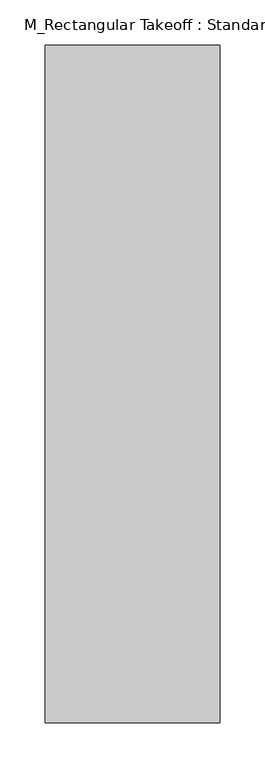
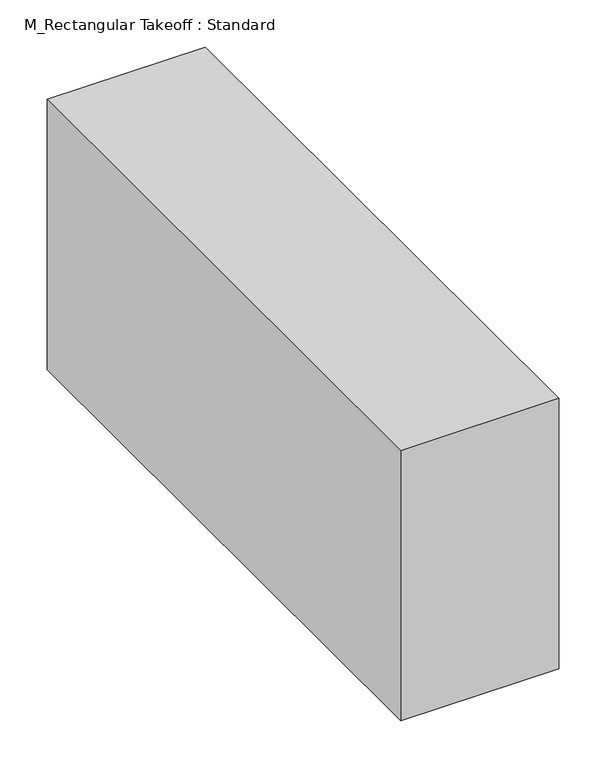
"""IFC4 building model written with IfcOpenShell, lengths in millimetres: duct fitting geometry, M_Rectangular Takeoff : Standard."""

import ifcopenshell
import ifcopenshell.guid

model = None  # the IFC model being written
_history = None  # IfcOwnerHistory: only IFC2X3 demands one
_inside = {}  # id of a spatial element -> (the spatial element, [elements in it])
_under = {}  # id of a project, library or spatial element -> (it, [spatial elements below it])
_declared = {}  # id of a project -> (the project, [libraries it declares])
_typed = {}  # id of a type object -> (the type object, [elements of that type])
_made_of = {}  # id of a material, layer set ... -> (it, [elements and type objects made of it])


def new_model(schema):
    """Start an empty IFC model of exactly this schema.

    Asked for "IFC4X3", IfcOpenShell would pick the latest addendum, in which some entities
    have other attributes; the version numbers below select the first issue.
    IFC2X3 requires an IfcOwnerHistory on every rooted entity: one is made here for all.
    """
    global model, _history
    if schema == "IFC4X3":
        model = ifcopenshell.file(schema_version=(4, 3, 0, 0))
    else:
        model = ifcopenshell.file(schema=schema)
    _inside.clear()
    _under.clear()
    _declared.clear()
    _typed.clear()
    _made_of.clear()
    _history = None
    if model.schema == "IFC2X3":
        org = make("IfcOrganization", Name="unknown")
        user = make(
            "IfcPersonAndOrganization",
            ThePerson=make("IfcPerson", FamilyName="unknown"),
            TheOrganization=org,
        )
        app = make(
            "IfcApplication",
            ApplicationDeveloper=org,
            Version="unknown",
            ApplicationFullName="unknown",
            ApplicationIdentifier="unknown",
        )
        _history = make(
            "IfcOwnerHistory",
            OwningUser=user,
            OwningApplication=app,
            ChangeAction="ADDED",
            CreationDate=0,
        )
    return model


def make(cls, **values):
    """One entity of the class cls with the attributes given. An attribute that is None is left unset."""
    return model.create_entity(
        cls, **{name: value for name, value in values.items() if value is not None}
    )


def rooted(cls, **values):
    """An entity with a GlobalId (a new one), such as an element, a storey or a relation."""
    return make(cls, GlobalId=ifcopenshell.guid.new(), OwnerHistory=_history, **values)


def si_unit(unit_type, name, prefix=None):
    """IfcSIUnit, for example si_unit("LENGTHUNIT", "METRE", prefix="MILLI")."""
    return make("IfcSIUnit", UnitType=unit_type, Prefix=prefix, Name=name)


def assignment(units):
    """IfcUnitAssignment: the units of a project."""
    return None if units is None else make("IfcUnitAssignment", Units=units)


def point(xyz):
    """IfcCartesianPoint."""
    return None if xyz is None else make("IfcCartesianPoint", Coordinates=xyz)


def direction(xyz):
    """IfcDirection."""
    return None if xyz is None else make("IfcDirection", DirectionRatios=xyz)


def frame(location, z_axis=None, x_axis=None):
    """IfcAxis2Placement3D, a coordinate frame: its origin and axes. An axis left out is left unset."""
    return make(
        "IfcAxis2Placement3D",
        Location=point(location),
        Axis=direction(z_axis),
        RefDirection=direction(x_axis),
    )


def origin():
    """The frame at (0, 0, 0) with its axes left unset."""
    return frame((0.0, 0.0, 0.0))


def place(relative_to, where):
    """IfcLocalPlacement: puts the frame where relative to a parent placement (None: the world)."""
    return make(
        "IfcLocalPlacement", PlacementRelTo=relative_to, RelativePlacement=where
    )


def context(
    kind, dimensions, precision=None, world=None, true_north=None, identifier=None
):
    """IfcGeometricRepresentationContext, for example the 3D "Model" context."""
    return make(
        "IfcGeometricRepresentationContext",
        ContextIdentifier=identifier,
        ContextType=kind,
        CoordinateSpaceDimension=dimensions,
        Precision=precision,
        WorldCoordinateSystem=world,
        TrueNorth=true_north,
    )


def project(units=None, contexts=None):
    """IfcProject with its units and contexts."""
    return rooted(
        "IfcProject",
        Name="project",
        RepresentationContexts=contexts,
        UnitsInContext=assignment(units),
    )


def spatial(cls, under=None, at=None, **own):
    """A site, building, storey or space (cls), placed at a placement, below another one or the project."""
    s = rooted(cls, ObjectPlacement=at, **own)
    if under is not None:
        _under.setdefault(under.id(), (under, []))[1].append(s)
    return s


def polyline(points):
    """IfcPolyline through the points."""
    return make("IfcPolyline", Points=[point(p) for p in points])


def outline(outer, holes=None, kind="AREA"):
    """IfcArbitraryClosedProfileDef: a profile drawn as a closed curve; with holes, ...WithVoids."""
    if holes is None:
        return make("IfcArbitraryClosedProfileDef", ProfileType=kind, OuterCurve=outer)
    return make(
        "IfcArbitraryProfileDefWithVoids",
        ProfileType=kind,
        OuterCurve=outer,
        InnerCurves=holes,
    )


def extrude(swept, where, along, depth):
    """IfcExtrudedAreaSolid: the profile swept, set in the frame where, extruded along a direction by depth."""
    return make(
        "IfcExtrudedAreaSolid",
        SweptArea=swept,
        Position=where,
        ExtrudedDirection=direction(along),
        Depth=depth,
    )


def shape(context_of_items, identifier, shape_type, items):
    """IfcShapeRepresentation: the items that make up one representation, for example the "Body"."""
    return make(
        "IfcShapeRepresentation",
        ContextOfItems=context_of_items,
        RepresentationIdentifier=identifier,
        RepresentationType=shape_type,
        Items=items,
    )


def source(mapping_origin, context_of_items, identifier, shape_type, items):
    """IfcRepresentationMap: a shape defined once, which mapped items show again and again."""
    return make(
        "IfcRepresentationMap",
        MappingOrigin=mapping_origin,
        MappedRepresentation=shape(context_of_items, identifier, shape_type, items),
    )


def transform(
    local_origin,
    x_axis=None,
    y_axis=None,
    z_axis=None,
    scale=None,
    scale2=None,
    scale3=None,
    uniform=True,
):
    """IfcCartesianTransformationOperator3D, or its non-uniform kind. x_axis, y_axis, z_axis: its Axis1, 2, 3."""
    if uniform:
        return make(
            "IfcCartesianTransformationOperator3D",
            Axis1=direction(x_axis),
            Axis2=direction(y_axis),
            LocalOrigin=point(local_origin),
            Scale=scale,
            Axis3=direction(z_axis),
        )
    return make(
        "IfcCartesianTransformationOperator3DnonUniform",
        Axis1=direction(x_axis),
        Axis2=direction(y_axis),
        LocalOrigin=point(local_origin),
        Scale=scale,
        Axis3=direction(z_axis),
        Scale2=scale2,
        Scale3=scale3,
    )


def mapped(mapping_source, mapping_target):
    """IfcMappedItem: shows the shape of a source again, moved by a transform."""
    return make(
        "IfcMappedItem", MappingSource=mapping_source, MappingTarget=mapping_target
    )


def made_of(thing, what):
    """Note that an element or type object is made of a material, layer set ...; save() writes the relation."""
    if what is not None:
        _made_of.setdefault(what.id(), (what, []))[1].append(thing)
    return thing


def element(
    cls,
    number,
    at=None,
    inside=None,
    cuts=None,
    type_object=None,
    material=None,
    context=None,
    identifier="Body",
    shape_type=None,
    held_by="IfcProductDefinitionShape",
    body=None,
    shapes=None,
    **own,
):
    """One element of the class cls, such as IfcWall. Its Tag is "e" and its number.

    at: its placement. inside: the storey or other place that contains it. cuts: it is an
    opening in that element (IfcRelVoidsElement). A single representation is given by context,
    identifier, shape_type and body (its items); several are given by shapes. held_by: the class
    of the entity that holds the representations. save() writes the other relations.
    """
    e = rooted(cls, Tag="e%d" % number, ObjectPlacement=at, **own)
    if body is not None:
        shapes = [shape(context, identifier, shape_type, body)]
    if shapes is not None:
        e.Representation = make(held_by, Representations=shapes)
    if inside is not None:
        _inside.setdefault(inside.id(), (inside, []))[1].append(e)
    if cuts is not None:
        rooted(
            "IfcRelVoidsElement", RelatingBuildingElement=cuts, RelatedOpeningElement=e
        )
    if type_object is not None:
        _typed.setdefault(type_object.id(), (type_object, []))[1].append(e)
    return made_of(e, material)


def aggregate(whole, parts):
    """IfcRelAggregates: a whole, such as a stair, and the parts it consists of."""
    return rooted("IfcRelAggregates", RelatingObject=whole, RelatedObjects=parts)


def save(model, path):
    """Write the relations noted so far, then the file.

    IfcRelAggregates (storeys below a building ...), IfcRelContainedInSpatialStructure (elements
    in a storey), IfcRelDefinesByType, IfcRelAssociatesMaterial and IfcRelDeclares: one each for
    every whole, place, type object, material and project.
    """
    for whole, parts in _under.values():
        aggregate(whole, parts)
    for where, things in _inside.values():
        rooted(
            "IfcRelContainedInSpatialStructure",
            RelatedElements=things,
            RelatingStructure=where,
        )
    for kind, things in _typed.values():
        rooted("IfcRelDefinesByType", RelatedObjects=things, RelatingType=kind)
    for what, things in _made_of.values():
        rooted("IfcRelAssociatesMaterial", RelatedObjects=things, RelatingMaterial=what)
    for by, libraries in _declared.values():
        rooted("IfcRelDeclares", RelatingContext=by, RelatedDefinitions=libraries)
    model.write(path)


def m_rectangular_takeoff_standard_9afebb50(model_context):
    return source(origin(), model_context, "Body", "SweptSolid", [
        extrude(outline(polyline([(-6.096, 375.0), (187.5, 375.0), (187.5, -375.0), (-6.096, -375.0), (-6.096, 375.0)])), frame((0.0, 0.0, -175.0), z_axis=(0.0, 0.0, 1.0), x_axis=(1.0, 0.0, 0.0)), (0.0, 0.0, 1.0), 350.0),
        extrude(outline(polyline([(-6.096, 375.0), (187.5, 375.0), (187.5, -375.0), (-6.096, -375.0), (-6.096, 375.0)])), frame((0.0, 0.0, -175.0), z_axis=(0.0, 0.0, 1.0), x_axis=(1.0, 0.0, 0.0)), (0.0, 0.0, 1.0), 350.0),
        extrude(outline(polyline([(-6.096, 375.0), (187.5, 375.0), (187.5, -375.0), (-6.096, -375.0), (-6.096, 375.0)])), frame((0.0, 0.0, -175.0), z_axis=(0.0, 0.0, 1.0), x_axis=(1.0, 0.0, 0.0)), (0.0, 0.0, 1.0), 350.0),
    ])


if __name__ == "__main__":
    model = new_model("IFC4")
    model_context = context("Model", 3, world=origin())
    ifc_project = project(units=[si_unit("LENGTHUNIT", "METRE", prefix="MILLI")], contexts=[model_context])
    site = spatial("IfcSite", under=ifc_project)
    building = spatial("IfcBuilding", under=site)
    placement = place(None, origin())
    m_rectangular_takeoff_standard_shape = m_rectangular_takeoff_standard_9afebb50(model_context)
    element("IfcDuctFitting", 1, ObjectType="M_Rectangular Takeoff : Standard", at=placement, inside=building, context=model_context, shape_type="MappedRepresentation", body=[
        mapped(m_rectangular_takeoff_standard_shape, transform((0.0, 0.0, 0.0), x_axis=(1.0, 0.0, 0.0), y_axis=(0.0, 1.0, 0.0), z_axis=(0.0, 0.0, 1.0))),
    ])
    save(model, "model.ifc")
